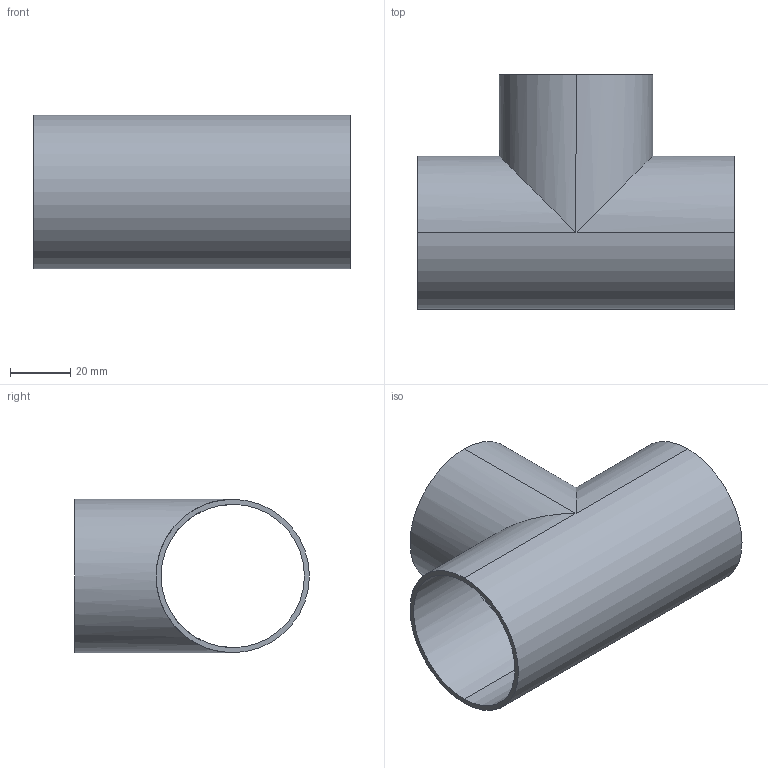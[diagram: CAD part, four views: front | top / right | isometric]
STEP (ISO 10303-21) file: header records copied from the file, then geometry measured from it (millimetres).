
FILE_DESCRIPTION (( 'STEP AP203' ), '1' );
FILE_NAME ('E7WWW2.0.STEP', '2018-05-02T17:59:35', ( 'vneprd' ), ( 'Microsoft' ), 'SwSTEP 2.0', 'SolidWorks 2014', '' );
FILE_SCHEMA (( 'CONFIG_CONTROL_DESIGN' ));
Length unit declared in the file: inch
Products named in the file (1): E7WWW2.0
Bounding box: 104.75 x 77.77 x 50.8 mm (x, y, z)
Volume: 32075.5 mm3; surface area: 39613.3 mm2
Topology: 1 solids, 1 shells, 13 faces, 28 edges, 16 vertices
Faces by surface type: cylinder 10, plane 3
Entity records: 437 total; most frequent: CARTESIAN_POINT 70, DIRECTION 64, ORIENTED_EDGE 56, EDGE_CURVE 28, AXIS2_PLACEMENT_3D 26, VERTEX_POINT 16, EDGE_LOOP 16, FACE_OUTER_BOUND 13
